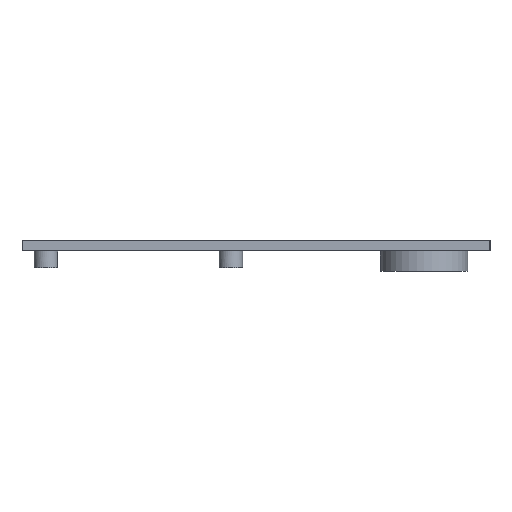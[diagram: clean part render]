
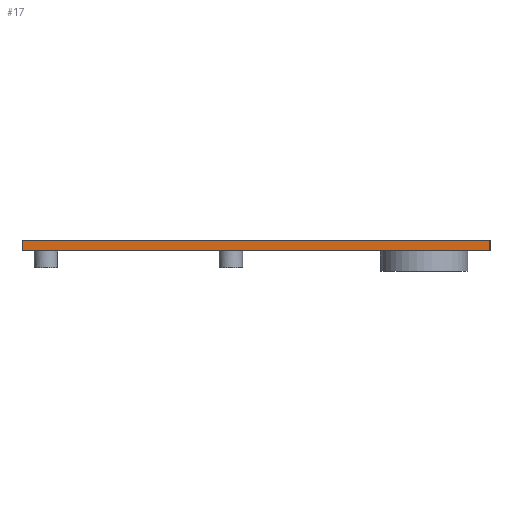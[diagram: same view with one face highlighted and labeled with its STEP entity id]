
A CAD part, left-side view. The second image highlights one B-rep face of the part: STEP entity #17.
In plain terms, the highlighted planar face has unit normal (-1, 0, 0).
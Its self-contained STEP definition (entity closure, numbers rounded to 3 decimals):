
#17 = ADVANCED_FACE('',(#18),#32,.F.);
#18 = FACE_BOUND('',#19,.F.);
#19 = EDGE_LOOP('',(#20,#55,#83,#111));
#20 = ORIENTED_EDGE('',*,*,#21,.F.);
#21 = EDGE_CURVE('',#22,#24,#26,.T.);
#22 = VERTEX_POINT('',#23);
#23 = CARTESIAN_POINT('',(0.4,0.4,67.));
#24 = VERTEX_POINT('',#25);
#25 = CARTESIAN_POINT('',(0.4,0.4,70.));
#26 = SURFACE_CURVE('',#27,(#31,#43),.PCURVE_S1.);
#27 = LINE('',#28,#29);
#28 = CARTESIAN_POINT('',(0.4,0.4,67.));
#29 = VECTOR('',#30,1.);
#30 = DIRECTION('',(0.,0.,1.));
#31 = PCURVE('',#32,#37);
#32 = PLANE('',#33);
#33 = AXIS2_PLACEMENT_3D('',#34,#35,#36);
#34 = CARTESIAN_POINT('',(0.4,0.4,67.));
#35 = DIRECTION('',(1.,0.,-0.));
#36 = DIRECTION('',(0.,0.,1.));
#37 = DEFINITIONAL_REPRESENTATION('',(#38),#42);
#38 = LINE('',#39,#40);
#39 = CARTESIAN_POINT('',(0.,0.));
#40 = VECTOR('',#41,1.);
#41 = DIRECTION('',(1.,0.));
#42 = ( GEOMETRIC_REPRESENTATION_CONTEXT(2) 
PARAMETRIC_REPRESENTATION_CONTEXT() REPRESENTATION_CONTEXT('2D SPACE',''
  ) );
#43 = PCURVE('',#44,#49);
#44 = PLANE('',#45);
#45 = AXIS2_PLACEMENT_3D('',#46,#47,#48);
#46 = CARTESIAN_POINT('',(0.4,0.4,67.));
#47 = DIRECTION('',(-0.,1.,0.));
#48 = DIRECTION('',(0.,0.,1.));
#49 = DEFINITIONAL_REPRESENTATION('',(#50),#54);
#50 = LINE('',#51,#52);
#51 = CARTESIAN_POINT('',(0.,0.));
#52 = VECTOR('',#53,1.);
#53 = DIRECTION('',(1.,0.));
#54 = ( GEOMETRIC_REPRESENTATION_CONTEXT(2) 
PARAMETRIC_REPRESENTATION_CONTEXT() REPRESENTATION_CONTEXT('2D SPACE',''
  ) );
#55 = ORIENTED_EDGE('',*,*,#56,.T.);
#56 = EDGE_CURVE('',#22,#57,#59,.T.);
#57 = VERTEX_POINT('',#58);
#58 = CARTESIAN_POINT('',(0.4,139.6,67.));
#59 = SURFACE_CURVE('',#60,(#64,#71),.PCURVE_S1.);
#60 = LINE('',#61,#62);
#61 = CARTESIAN_POINT('',(0.4,0.4,67.));
#62 = VECTOR('',#63,1.);
#63 = DIRECTION('',(-0.,1.,0.));
#64 = PCURVE('',#32,#65);
#65 = DEFINITIONAL_REPRESENTATION('',(#66),#70);
#66 = LINE('',#67,#68);
#67 = CARTESIAN_POINT('',(0.,0.));
#68 = VECTOR('',#69,1.);
#69 = DIRECTION('',(0.,-1.));
#70 = ( GEOMETRIC_REPRESENTATION_CONTEXT(2) 
PARAMETRIC_REPRESENTATION_CONTEXT() REPRESENTATION_CONTEXT('2D SPACE',''
  ) );
#71 = PCURVE('',#72,#77);
#72 = PLANE('',#73);
#73 = AXIS2_PLACEMENT_3D('',#74,#75,#76);
#74 = CARTESIAN_POINT('',(0.4,0.4,67.));
#75 = DIRECTION('',(0.,0.,1.));
#76 = DIRECTION('',(1.,0.,-0.));
#77 = DEFINITIONAL_REPRESENTATION('',(#78),#82);
#78 = LINE('',#79,#80);
#79 = CARTESIAN_POINT('',(0.,0.));
#80 = VECTOR('',#81,1.);
#81 = DIRECTION('',(0.,1.));
#82 = ( GEOMETRIC_REPRESENTATION_CONTEXT(2) 
PARAMETRIC_REPRESENTATION_CONTEXT() REPRESENTATION_CONTEXT('2D SPACE',''
  ) );
#83 = ORIENTED_EDGE('',*,*,#84,.T.);
#84 = EDGE_CURVE('',#57,#85,#87,.T.);
#85 = VERTEX_POINT('',#86);
#86 = CARTESIAN_POINT('',(0.4,139.6,70.));
#87 = SURFACE_CURVE('',#88,(#92,#99),.PCURVE_S1.);
#88 = LINE('',#89,#90);
#89 = CARTESIAN_POINT('',(0.4,139.6,67.));
#90 = VECTOR('',#91,1.);
#91 = DIRECTION('',(0.,0.,1.));
#92 = PCURVE('',#32,#93);
#93 = DEFINITIONAL_REPRESENTATION('',(#94),#98);
#94 = LINE('',#95,#96);
#95 = CARTESIAN_POINT('',(0.,-139.2));
#96 = VECTOR('',#97,1.);
#97 = DIRECTION('',(1.,0.));
#98 = ( GEOMETRIC_REPRESENTATION_CONTEXT(2) 
PARAMETRIC_REPRESENTATION_CONTEXT() REPRESENTATION_CONTEXT('2D SPACE',''
  ) );
#99 = PCURVE('',#100,#105);
#100 = PLANE('',#101);
#101 = AXIS2_PLACEMENT_3D('',#102,#103,#104);
#102 = CARTESIAN_POINT('',(0.4,139.6,67.));
#103 = DIRECTION('',(-0.,1.,0.));
#104 = DIRECTION('',(0.,0.,1.));
#105 = DEFINITIONAL_REPRESENTATION('',(#106),#110);
#106 = LINE('',#107,#108);
#107 = CARTESIAN_POINT('',(0.,0.));
#108 = VECTOR('',#109,1.);
#109 = DIRECTION('',(1.,0.));
#110 = ( GEOMETRIC_REPRESENTATION_CONTEXT(2) 
PARAMETRIC_REPRESENTATION_CONTEXT() REPRESENTATION_CONTEXT('2D SPACE',''
  ) );
#111 = ORIENTED_EDGE('',*,*,#112,.F.);
#112 = EDGE_CURVE('',#24,#85,#113,.T.);
#113 = SURFACE_CURVE('',#114,(#118,#125),.PCURVE_S1.);
#114 = LINE('',#115,#116);
#115 = CARTESIAN_POINT('',(0.4,0.4,70.));
#116 = VECTOR('',#117,1.);
#117 = DIRECTION('',(-0.,1.,0.));
#118 = PCURVE('',#32,#119);
#119 = DEFINITIONAL_REPRESENTATION('',(#120),#124);
#120 = LINE('',#121,#122);
#121 = CARTESIAN_POINT('',(3.,0.));
#122 = VECTOR('',#123,1.);
#123 = DIRECTION('',(0.,-1.));
#124 = ( GEOMETRIC_REPRESENTATION_CONTEXT(2) 
PARAMETRIC_REPRESENTATION_CONTEXT() REPRESENTATION_CONTEXT('2D SPACE',''
  ) );
#125 = PCURVE('',#126,#131);
#126 = PLANE('',#127);
#127 = AXIS2_PLACEMENT_3D('',#128,#129,#130);
#128 = CARTESIAN_POINT('',(0.4,0.4,70.));
#129 = DIRECTION('',(0.,0.,1.));
#130 = DIRECTION('',(1.,0.,-0.));
#131 = DEFINITIONAL_REPRESENTATION('',(#132),#136);
#132 = LINE('',#133,#134);
#133 = CARTESIAN_POINT('',(0.,0.));
#134 = VECTOR('',#135,1.);
#135 = DIRECTION('',(0.,1.));
#136 = ( GEOMETRIC_REPRESENTATION_CONTEXT(2) 
PARAMETRIC_REPRESENTATION_CONTEXT() REPRESENTATION_CONTEXT('2D SPACE',''
  ) );
